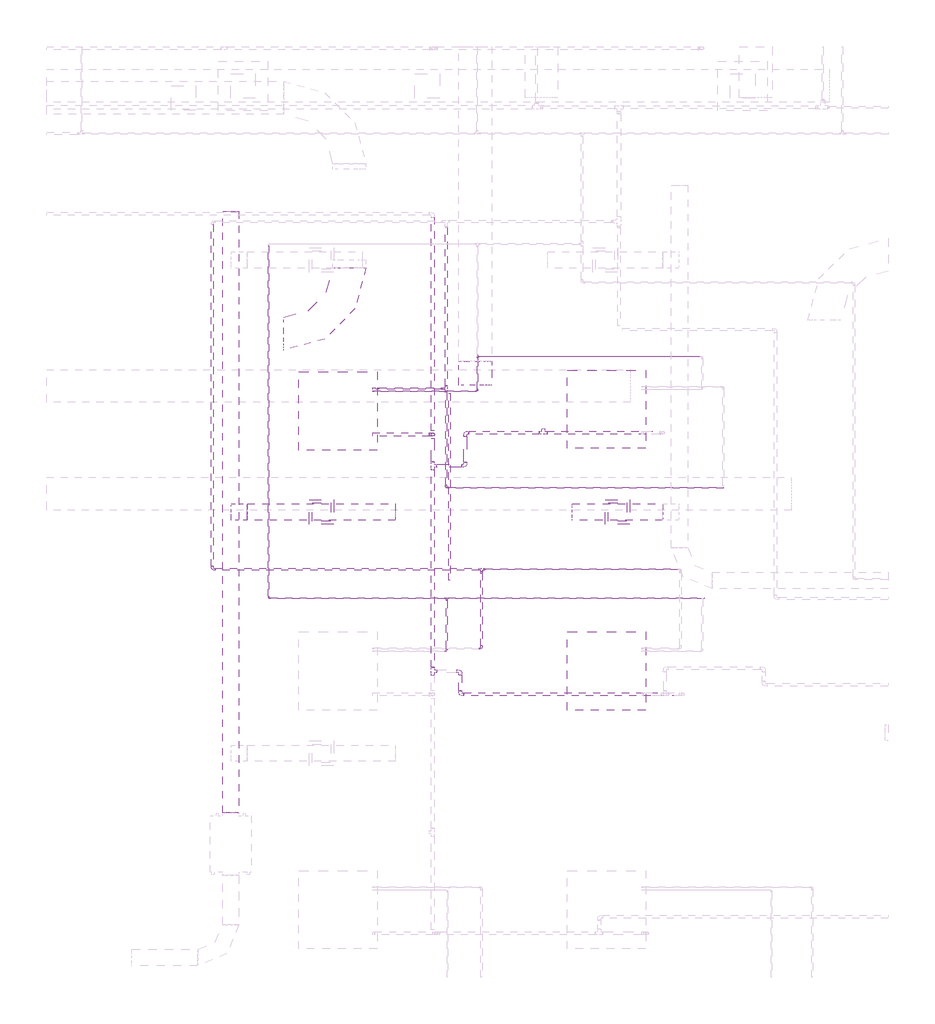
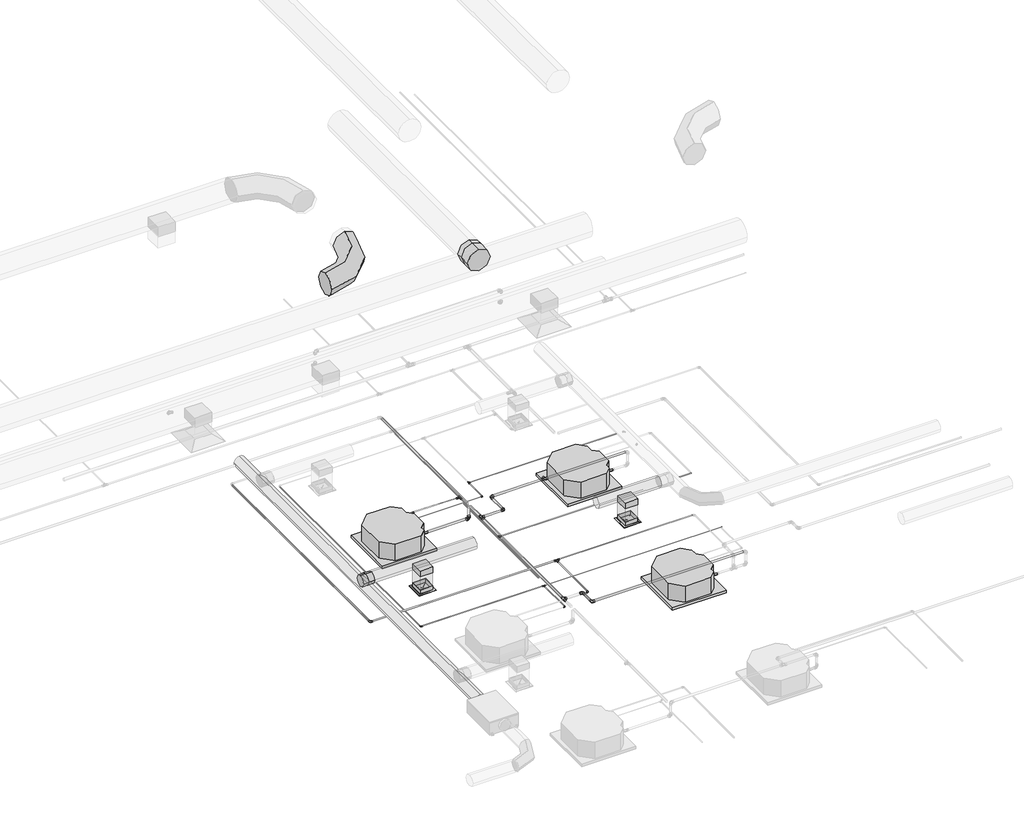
# One storey, part 10 of 21: 28 pipe segments, 24 pipe fittings, 5 duct fittings, 5 duct segments, 3 proxies, 2 air terminals.
"""IFC4 building model written with IfcOpenShell, lengths in millimetres."""

from ifc_helpers import new_model, si_unit, point, frame, frame_2d, origin, place, context, project, spatial, polyline, circle_curve, trimmed, segment, composite_curve, outline, extrude, transform, mapped, element, save
from components import sdq3535_a75e83f7, mechanical_equipment_53173f38, duct_fitting_1aed30ea, duct_fitting_f399081e, duct_fitting_4c01d837, duct_fitting_2_d_33ab650d, pipe_fitting_535881cf, pipe_fitting_3e2a63ee, pipe_fitting_5bd27a37, pipe_fitting_a5ff4f7d, pipe_fitting_660e7500, pipe_fitting_5aefb692, pipe_fitting_240cf9e3, pipe_fitting_c900cfc2, pipe_fitting_16c020f5, pipe_fitting_59d1f3e3, pipe_fitting_648138cd, pipe_fitting_725bd888

model = new_model("IFC4")

# Units and contexts
model_context = context("Model", 3, world=origin())
ifc_project = project(units=[si_unit("LENGTHUNIT", "METRE", prefix="MILLI")], contexts=[model_context])

# Site, building, storey
site = spatial("IfcSite", under=ifc_project)
building = spatial("IfcBuilding", under=site)
storey = spatial("IfcBuildingStorey", under=building, Name="Nível 1", Elevation=0.0)

# Air terminals
placement = place(None, origin())
sdq3535_shape = sdq3535_a75e83f7(model_context)
element("IfcAirTerminal", 1, ObjectType="11 - Difusor Quadrado : SDQ3535", at=placement, inside=storey, context=model_context, shape_type="MappedRepresentation", body=[
    mapped(sdq3535_shape, transform((23938.3034633, -2888.7123683, 3000.0), x_axis=(0.0, 1.0, 0.0), y_axis=(-1.0, 0.0, 0.0), z_axis=(0.0, 0.0, 1.0))),
])
element("IfcAirTerminal", 2, ObjectType="11 - Difusor Quadrado : SDQ3535", at=placement, inside=storey, context=model_context, shape_type="MappedRepresentation", body=[
    mapped(sdq3535_shape, transform((20342.4289049, -2888.7123683, 3000.0), x_axis=(0.0, -1.0, 0.0), y_axis=(1.0, 0.0, 0.0), z_axis=(0.0, 0.0, 1.0))),
])

# Proxies
mechanical_equipment_shape = mechanical_equipment_53173f38(model_context)
element("IfcBuildingElementProxy", 3, Name="Midea_VRF_Indoor_4-way Cassette_MI-90(100,112,140)Q4_DHN1-D (2nd DC) : MI2-140Q4DHN1", ObjectType="Midea_VRF_Indoor_4-way Cassette_MI-90(100,112,140)Q4_DHN1-D (2nd DC) : MI2-140Q4DHN1", at=placement, inside=storey, context=model_context, shape_type="MappedRepresentation", body=[
    mapped(mechanical_equipment_shape, transform((20543.048092, -1662.9198764, 3000.0), x_axis=(1.0, 0.0, 0.0), y_axis=(0.0, 1.0, 0.0), z_axis=(0.0, 0.0, 1.0))),
])
element("IfcBuildingElementProxy", 4, Name="Midea_VRF_Indoor_4-way Cassette_MI-90(100,112,140)Q4_DHN1-D (2nd DC) : MI2-140Q4DHN1", ObjectType="Midea_VRF_Indoor_4-way Cassette_MI-90(100,112,140)Q4_DHN1-D (2nd DC) : MI2-140Q4DHN1", at=placement, inside=storey, context=model_context, shape_type="MappedRepresentation", body=[
    mapped(mechanical_equipment_shape, transform((23805.0530733, -1641.1931819, 2999.957539), x_axis=(1.0, 0.0, 0.0), y_axis=(0.0, 1.0, 0.0), z_axis=(0.0, 0.0, 1.0))),
])
element("IfcBuildingElementProxy", 5, Name="Midea_VRF_Indoor_4-way Cassette_MI-90(100,112,140)Q4_DHN1-D (2nd DC) : MI2-140Q4DHN1", ObjectType="Midea_VRF_Indoor_4-way Cassette_MI-90(100,112,140)Q4_DHN1-D (2nd DC) : MI2-140Q4DHN1", at=placement, inside=storey, context=model_context, shape_type="MappedRepresentation", body=[
    mapped(mechanical_equipment_shape, transform((23805.0530733, -4816.980613, 3000.0), x_axis=(1.0, 0.0, 0.0), y_axis=(0.0, 1.0, 0.0), z_axis=(0.0, 0.0, 1.0))),
])

# Duct fittings
duct_fitting_shape = duct_fitting_1aed30ea(model_context)
element("IfcDuctFitting", 6, ObjectType="M_Encaixe de duto redondo : Padrão", at=placement, inside=storey, context=model_context, shape_type="MappedRepresentation", body=[
    mapped(duct_fitting_shape, transform((19341.3789049, -2888.7123683, 3521.0), x_axis=(1.0, 0.0, 0.0), y_axis=(0.0, -1.0, 0.0), z_axis=(0.0, 0.0, -1.0))),
])
duct_fitting_2_shape = duct_fitting_f399081e(model_context)
element("IfcDuctFitting", 7, ObjectType="M_Encaixe de duto redondo : Padrão", at=placement, inside=storey, context=model_context, shape_type="MappedRepresentation", body=[
    mapped(duct_fitting_2_shape, transform((22212.1483041, -1159.3889752, 7501.0), x_axis=(0.0, 1.0, 0.0), y_axis=(1.0, 0.0, 0.0), z_axis=(0.0, 0.0, -1.0))),
])
duct_fitting_3_shape = duct_fitting_4c01d837(model_context)
element("IfcDuctFitting", 8, ObjectType="M_Encaixe de duto retangular : Padrão", at=placement, inside=storey, context=model_context, shape_type="MappedRepresentation", body=[
    mapped(duct_fitting_3_shape, transform((23938.3034633, -2888.7123683, 3421.5), x_axis=(0.0, 0.0, -1.0), y_axis=(1.0, 0.0, 0.0), z_axis=(0.0, -1.0, 0.0))),
])
element("IfcDuctFitting", 9, ObjectType="M_Encaixe de duto retangular : Padrão", at=placement, inside=storey, context=model_context, shape_type="MappedRepresentation", body=[
    mapped(duct_fitting_3_shape, transform((20342.4289049, -2888.7123683, 3421.5), x_axis=(0.0, 0.0, -1.0), y_axis=(-1.0, 0.0, 0.0), z_axis=(0.0, 1.0, 0.0))),
])
duct_fitting_2_d_shape = duct_fitting_2_d_33ab650d(model_context)
element("IfcDuctFitting", 10, ObjectType="M_Cotovelo redondo : 2 D", at=placement, inside=storey, context=model_context, shape_type="MappedRepresentation", body=[
    mapped(duct_fitting_2_d_shape, transform((20682.6496305, -724.1631352, 7501.0), x_axis=(1.0, 0.0, 0.0), y_axis=(0.0, 1.0, 0.0), z_axis=(0.0, 0.0, 1.0))),
])

# Duct segments
element("IfcDuctSegment", 11, ObjectType="Torneiras / Raio curto", at=placement, inside=storey, context=model_context, shape_type="SweptSolid", body=[
    extrude(outline(composite_curve([segment(trimmed(circle_curve(frame_2d((3521.0, 19241.8789049)), 99.5), [point((3521.0, 19341.3789049))], [point((3620.5, 19241.8789049))], False, "CARTESIAN"), True, "CONTINUOUS"), segment(trimmed(circle_curve(frame_2d((3521.0, 19241.8789049)), 99.5), [point((3620.5, 19241.8789049))], [point((3521.0, 19142.3789049))], False, "CARTESIAN"), True, "CONTINUOUS"), segment(trimmed(circle_curve(frame_2d((3521.0, 19241.8789049)), 99.5), [point((3521.0, 19142.3789049))], [point((3421.5, 19241.8789049))], False, "CARTESIAN"), True, "CONTINUOUS"), segment(trimmed(circle_curve(frame_2d((3521.0, 19241.8789049)), 99.5), [point((3421.5, 19241.8789049))], [point((3521.0, 19341.3789049))], False, "CARTESIAN"), True, "CONTINUOUS")], self_intersect=False)), frame((0.0, -6538.7123683, 0.0), z_axis=(0.0, 1.0, 0.0), x_axis=(0.0, 0.0, 1.0)), (0.0, 0.0, 1.0), 7300.0),
])
element("IfcDuctSegment", 12, ObjectType="Torneiras / Raio curto", at=placement, inside=storey, context=model_context, shape_type="SweptSolid", body=[
    extrude(outline(composite_curve([segment(trimmed(circle_curve(frame_2d((-2888.7123683, 3521.0)), 99.5), [point((-2988.2123683, 3521.0))], [point((-2888.7123683, 3620.5))], False, "CARTESIAN"), True, "CONTINUOUS"), segment(trimmed(circle_curve(frame_2d((-2888.7123683, 3521.0)), 99.5), [point((-2888.7123683, 3620.5))], [point((-2789.2123683, 3521.0))], False, "CARTESIAN"), True, "CONTINUOUS"), segment(trimmed(circle_curve(frame_2d((-2888.7123683, 3521.0)), 99.5), [point((-2789.2123683, 3521.0))], [point((-2888.7123683, 3421.5))], False, "CARTESIAN"), True, "CONTINUOUS"), segment(trimmed(circle_curve(frame_2d((-2888.7123683, 3521.0)), 99.5), [point((-2888.7123683, 3421.5))], [point((-2988.2123683, 3521.0))], False, "CARTESIAN"), True, "CONTINUOUS")], self_intersect=False)), frame((19442.9789049, 0.0, 0.0), z_axis=(1.0, 0.0, 0.0), x_axis=(0.0, 1.0, 0.0)), (0.0, 0.0, 1.0), 1798.9),
])
element("IfcDuctSegment", 13, ObjectType="Torneiras / Raio curto", at=placement, inside=storey, context=model_context, shape_type="SweptSolid", body=[
    extrude(outline(composite_curve([segment(trimmed(circle_curve(frame_2d((-2888.7123683, 3521.0)), 99.5), [point((-2789.2123683, 3521.0))], [point((-2888.7123683, 3421.5))], False, "CARTESIAN"), True, "CONTINUOUS"), segment(trimmed(circle_curve(frame_2d((-2888.7123683, 3521.0)), 99.5), [point((-2888.7123683, 3421.5))], [point((-2988.2123683, 3521.0))], False, "CARTESIAN"), True, "CONTINUOUS"), segment(trimmed(circle_curve(frame_2d((-2888.7123683, 3521.0)), 99.5), [point((-2988.2123683, 3521.0))], [point((-2888.7123683, 3620.5))], False, "CARTESIAN"), True, "CONTINUOUS"), segment(trimmed(circle_curve(frame_2d((-2888.7123683, 3521.0)), 99.5), [point((-2888.7123683, 3620.5))], [point((-2789.2123683, 3521.0))], False, "CARTESIAN"), True, "CONTINUOUS")], self_intersect=False)), frame((23389.1034633, 0.0, 0.0), z_axis=(1.0, 0.0, 0.0), x_axis=(0.0, 1.0, 0.0)), (0.0, 0.0, 1.0), 1098.4),
])
element("IfcDuctSegment", 14, ObjectType="Raios cotovelos / torneiras", at=placement, inside=storey, context=model_context, shape_type="SweptSolid", body=[
    extrude(outline(polyline([(23825.8034633, -2776.2123683), (24050.8034633, -2776.2123683), (24050.8034633, -3001.2123683), (23825.8034633, -3001.2123683), (23825.8034633, -2776.2123683)])), frame((0.0, 0.0, 3005.0), z_axis=(0.0, 0.0, 1.0), x_axis=(1.0, 0.0, 0.0)), (0.0, 0.0, 1.0), 314.9),
])
element("IfcDuctSegment", 15, ObjectType="Raios cotovelos / torneiras", at=placement, inside=storey, context=model_context, shape_type="SweptSolid", body=[
    extrude(outline(polyline([(20454.9289049, -3001.2123683), (20229.9289049, -3001.2123683), (20229.9289049, -2776.2123683), (20454.9289049, -2776.2123683), (20454.9289049, -3001.2123683)])), frame((0.0, 0.0, 3005.0), z_axis=(0.0, 0.0, 1.0), x_axis=(1.0, 0.0, 0.0)), (0.0, 0.0, 1.0), 314.9),
])

# Pipe fittings
pipe_fitting_shape = pipe_fitting_535881cf(model_context)
element("IfcPipeFitting", 16, ObjectType="Cotovelo - Soldado - CU : Padrão", at=placement, inside=storey, context=model_context, shape_type="MappedRepresentation", body=[
    mapped(pipe_fitting_shape, transform((22090.0530711, -1926.1931819, 3500.0), x_axis=(-1.0, 0.0, 0.0), y_axis=(0.0, -1.0, 0.0), z_axis=(0.0, 0.0, 1.0))),
])
element("IfcPipeFitting", 17, ObjectType="Cotovelo - Soldado - CU : Padrão", at=placement, inside=storey, context=model_context, shape_type="MappedRepresentation", body=[
    mapped(pipe_fitting_shape, transform((22090.0530711, -2326.1931819, 3500.0), x_axis=(1.0, 0.0, 0.0), y_axis=(0.0, 1.0, 0.0), z_axis=(0.0, 0.0, 1.0))),
])
element("IfcPipeFitting", 18, ObjectType="Cotovelo - Soldado - CU : Padrão", at=placement, inside=storey, context=model_context, shape_type="MappedRepresentation", body=[
    mapped(pipe_fitting_shape, transform((22030.0530732, -5101.980613, 3500.0), x_axis=(0.0, -1.0, 0.0), y_axis=(1.0, 0.0, 0.0), z_axis=(0.0, 0.0, 1.0))),
])
element("IfcPipeFitting", 19, ObjectType="Cotovelo - Soldado - CU : Padrão", at=placement, inside=storey, context=model_context, shape_type="MappedRepresentation", body=[
    mapped(pipe_fitting_shape, transform((22030.0530732, -4821.980613, 3500.0), x_axis=(0.0, 1.0, 0.0), y_axis=(-1.0, 0.0, 0.0), z_axis=(0.0, 0.0, 1.0))),
])
pipe_fitting_2_shape = pipe_fitting_3e2a63ee(model_context)
element("IfcPipeFitting", 20, ObjectType="Tê - Soldado - CU : Padrão", at=placement, inside=storey, context=model_context, shape_type="MappedRepresentation", body=[
    mapped(pipe_fitting_2_shape, transform((21695.3015024, -2326.1931819, 3500.0), x_axis=(0.0, 1.0, 0.0), y_axis=(-1.0, 0.0, 0.0), z_axis=(0.0, 0.0, 1.0))),
])
element("IfcPipeFitting", 21, ObjectType="Tê - Soldado - CU : Padrão", at=placement, inside=storey, context=model_context, shape_type="MappedRepresentation", body=[
    mapped(pipe_fitting_2_shape, transform((21695.3015024, -4821.980613, 3500.0), x_axis=(0.0, 1.0, 0.0), y_axis=(-1.0, 0.0, 0.0), z_axis=(0.0, 0.0, 1.0))),
])
element("IfcPipeFitting", 22, ObjectType="Tê - Soldado - CU : Padrão", at=placement, inside=storey, context=model_context, shape_type="MappedRepresentation", body=[
    mapped(pipe_fitting_2_shape, transform((23035.2170018, -1926.1931819, 3500.0), x_axis=(1.0, 0.0, 0.0), y_axis=(0.0, -1.0, 0.0), z_axis=(0.0, 0.0, -1.0))),
])
pipe_fitting_3_shape = pipe_fitting_5bd27a37(model_context)
element("IfcPipeFitting", 23, ObjectType="Cotovelo - PVC - CW : Padrão", at=placement, inside=storey, context=model_context, shape_type="MappedRepresentation", body=[
    mapped(pipe_fitting_3_shape, transform((21695.3015024, -1947.9198764, 3252.2997902), x_axis=(0.0, 0.0, -1.0), y_axis=(-1.0, 0.0, 0.0), z_axis=(0.0, 1.0, 0.0))),
])
pipe_fitting_4_shape = pipe_fitting_a5ff4f7d(model_context)
element("IfcPipeFitting", 24, ObjectType="Bucha de redução reta - Soldada - CU : Padrão", at=placement, inside=storey, context=model_context, shape_type="MappedRepresentation", body=[
    mapped(pipe_fitting_4_shape, transform((21812.6543216, -1389.7090627, 3244.9996149), x_axis=(-0.9999489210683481, 0.0, 0.010107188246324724), y_axis=(-2.6392464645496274e-05, -0.9999965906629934, -0.002611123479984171), z_axis=(0.010107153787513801, -0.0026112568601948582, 0.9999455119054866))),
])
element("IfcPipeFitting", 25, ObjectType="Bucha de redução reta - Soldada - CU : Padrão", at=placement, inside=storey, context=model_context, shape_type="MappedRepresentation", body=[
    mapped(pipe_fitting_4_shape, transform((21857.3516384, -1422.472451, 3244.4622693), x_axis=(0.0, -0.9999965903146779, -0.002611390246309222), y_axis=(0.9999489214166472, 2.6393722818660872e-05, -0.01010711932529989), z_axis=(0.010107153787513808, -0.0026112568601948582, 0.9999455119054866))),
])
element("IfcPipeFitting", 26, ObjectType="Bucha de redução reta - Soldada - CU : Padrão", at=placement, inside=storey, context=model_context, shape_type="MappedRepresentation", body=[
    mapped(pipe_fitting_4_shape, transform((22286.8201066, -3616.3591299, 3258.1740605), x_axis=(0.0, -0.9999801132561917, -0.006306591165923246), y_axis=(1.0000000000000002, 0.0, 0.0), z_axis=(0.0, -0.006306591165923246, 0.9999801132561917))),
])
element("IfcPipeFitting", 27, ObjectType="Bucha de redução reta - Soldada - CU : Padrão", at=placement, inside=storey, context=model_context, shape_type="MappedRepresentation", body=[
    mapped(pipe_fitting_4_shape, transform((22319.5672066, -3583.6315808, 3258.3804639), x_axis=(1.0, 0.0, 0.0), y_axis=(0.0, 0.9999801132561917, 0.006306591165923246), z_axis=(0.0, -0.006306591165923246, 0.9999801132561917))),
])
pipe_fitting_5_shape = pipe_fitting_660e7500(model_context)
element("IfcPipeFitting", 28, ObjectType="Tê - Soldado - CU : Padrão", at=placement, inside=storey, context=model_context, shape_type="MappedRepresentation", body=[
    mapped(pipe_fitting_5_shape, transform((22286.8201066, -3583.6315808, 3258.3804639), x_axis=(-1.0, 0.0, 0.0), y_axis=(0.0, 0.9999801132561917, 0.006306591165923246), z_axis=(0.0, 0.006306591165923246, -0.9999801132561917))),
])
pipe_fitting_6_shape = pipe_fitting_5aefb692(model_context)
element("IfcPipeFitting", 29, ObjectType="Cotovelo - Soldado - CU : Padrão", at=placement, inside=storey, context=model_context, shape_type="MappedRepresentation", body=[
    mapped(pipe_fitting_6_shape, transform((19017.7444764, -3583.6315808, 3258.3804639), x_axis=(0.0, -1.0, 0.0), y_axis=(1.0, 0.0, 0.0), z_axis=(0.0, 0.0, 1.0))),
])
pipe_fitting_7_shape = pipe_fitting_240cf9e3(model_context)
element("IfcPipeFitting", 30, ObjectType="Tê - Soldado - CU : Padrão", at=placement, inside=storey, context=model_context, shape_type="MappedRepresentation", body=[
    mapped(pipe_fitting_7_shape, transform((21857.3516384, -1389.7090627, 3244.5478276), x_axis=(0.0, 0.9999965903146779, 0.002611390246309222), y_axis=(0.9999489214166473, 2.639372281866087e-05, -0.010107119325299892), z_axis=(-0.01010715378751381, 0.0026112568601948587, -0.9999455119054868))),
])
pipe_fitting_8_shape = pipe_fitting_c900cfc2(model_context)
element("IfcPipeFitting", 31, ObjectType="Bucha de redução reta - Soldada - CU : Padrão", at=placement, inside=storey, context=model_context, shape_type="MappedRepresentation", body=[
    mapped(pipe_fitting_8_shape, transform((21031.5069338, -1389.7090627, 3252.3085101), x_axis=(1.0, 0.0, 0.0), y_axis=(0.0, 1.0, 0.0), z_axis=(0.0, 0.0, 1.0))),
])
pipe_fitting_9_shape = pipe_fitting_16c020f5(model_context)
element("IfcPipeFitting", 32, ObjectType="Cotovelo - Soldado - CU : Padrão", at=placement, inside=storey, context=model_context, shape_type="MappedRepresentation", body=[
    mapped(pipe_fitting_9_shape, transform((21857.3516384, -2593.4898582, 3241.4042755), x_axis=(0.0, -0.9999965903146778, -0.0026113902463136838), y_axis=(1.0, 0.0, 0.0), z_axis=(0.0, -0.0026113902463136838, 0.9999965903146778))),
])
element("IfcPipeFitting", 33, ObjectType="Cotovelo - Soldado - CU : Padrão", at=placement, inside=storey, context=model_context, shape_type="MappedRepresentation", body=[
    mapped(pipe_fitting_9_shape, transform((22286.8201066, -4543.7697994, 3252.3085101), x_axis=(1.0, 0.0, 0.0), y_axis=(0.0, 0.9999801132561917, 0.006306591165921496), z_axis=(0.0, -0.006306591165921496, 0.9999801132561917))),
])
pipe_fitting_10_shape = pipe_fitting_59d1f3e3(model_context)
element("IfcPipeFitting", 34, ObjectType="Bucha de redução reta - Soldada - CU : Padrão", at=placement, inside=storey, context=model_context, shape_type="MappedRepresentation", body=[
    mapped(pipe_fitting_10_shape, transform((20968.048092, -1423.5115045, 3146.8446487), x_axis=(1.0, 0.0, 0.0), y_axis=(0.0, 1.0, 0.0), z_axis=(0.0, 0.0, 1.0))),
])
pipe_fitting_11_shape = pipe_fitting_648138cd(model_context)
element("IfcPipeFitting", 35, ObjectType="Cotovelo - Soldado - CU : Padrão", at=placement, inside=storey, context=model_context, shape_type="MappedRepresentation", body=[
    mapped(pipe_fitting_11_shape, transform((22237.7224905, -1423.5115045, 3146.7837101), x_axis=(0.9999999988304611, 0.0, -4.8364015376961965e-05), y_axis=(4.4037031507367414e-10, 0.9999999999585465, 9.105329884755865e-06), z_axis=(4.83640153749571e-05, -9.105329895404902e-06, 0.9999999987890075))),
])
element("IfcPipeFitting", 36, ObjectType="Cotovelo - Soldado - CU : Padrão", at=placement, inside=storey, context=model_context, shape_type="MappedRepresentation", body=[
    mapped(pipe_fitting_11_shape, transform((19700.4127405, -3934.628981, 3146.8), x_axis=(0.0, -1.0, 0.0), y_axis=(1.0, 0.0, 0.0), z_axis=(0.0, 0.0, 1.0))),
])
element("IfcPipeFitting", 37, ObjectType="Cotovelo - Soldado - CU : Padrão", at=placement, inside=storey, context=model_context, shape_type="MappedRepresentation", body=[
    mapped(pipe_fitting_11_shape, transform((21863.0244777, -4577.5722412, 3146.8016836), x_axis=(0.9999999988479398, 0.0, -4.8001255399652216e-05), y_axis=(-1.2562438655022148e-10, 0.9999999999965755, -2.6171062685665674e-06), z_axis=(4.800125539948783e-05, 2.6171062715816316e-06, 0.9999999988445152))),
])
pipe_fitting_12_shape = pipe_fitting_725bd888(model_context)
element("IfcPipeFitting", 38, ObjectType="Tê - Soldado - CU : Padrão", at=placement, inside=storey, context=model_context, shape_type="MappedRepresentation", body=[
    mapped(pipe_fitting_12_shape, transform((22237.7224905, -1001.78481, 3146.7875501), x_axis=(0.0, -0.9999999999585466, -9.105329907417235e-06), y_axis=(-1.0000000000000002, 0.0, 0.0), z_axis=(0.0, 9.105329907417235e-06, -0.9999999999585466))),
])
element("IfcPipeFitting", 39, ObjectType="Tê - Soldado - CU : Padrão", at=placement, inside=storey, context=model_context, shape_type="MappedRepresentation", body=[
    mapped(pipe_fitting_12_shape, transform((21863.0244777, -3934.628981, 3146.8), x_axis=(-1.0, 0.0, 0.0), y_axis=(0.0, 0.9999999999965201, -2.638159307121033e-06), z_axis=(0.0, -2.638159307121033e-06, -0.9999999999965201))),
])

# Pipe segments
element("IfcPipeSegment", 40, ObjectType="Tubos de cobre HVAC", at=placement, inside=storey, context=model_context, shape_type="SweptSolid", body=[
    extrude(outline(composite_curve([segment(trimmed(circle_curve(frame_2d((0.0, -7.935)), 7.935), [point((0.0, -15.87))], [point((-7.935, -7.935))], False, "CARTESIAN"), True, "CONTINUOUS"), segment(trimmed(circle_curve(frame_2d((0.0, -7.935)), 7.935), [point((-7.935, -7.935))], [point((0.0, 0.0))], False, "CARTESIAN"), True, "CONTINUOUS"), segment(trimmed(circle_curve(frame_2d((0.0, -7.935)), 7.935), [point((0.0, 0.0))], [point((7.935, -7.935))], False, "CARTESIAN"), True, "CONTINUOUS"), segment(trimmed(circle_curve(frame_2d((0.0, -7.935)), 7.935), [point((7.935, -7.935))], [point((0.0, -15.87))], False, "CARTESIAN"), True, "CONTINUOUS")], self_intersect=False)), frame((21799.9960682, -1381.7740627, 3245.1275608), z_axis=(-0.9999548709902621, 0.0, 0.009500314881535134), x_axis=(0.009500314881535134, 0.0, 0.9999548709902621)), (0.0, 0.0, 1.0), 755.8643458),
])
element("IfcPipeSegment", 41, ObjectType="Tubos de cobre HVAC", at=placement, inside=storey, context=model_context, shape_type="SweptSolid", body=[
    extrude(outline(composite_curve([segment(trimmed(circle_curve(frame_2d((0.0, -4.76)), 4.76), [point((-4.76, -4.76))], [point((0.0, 0.0))], False, "CARTESIAN"), True, "CONTINUOUS"), segment(trimmed(circle_curve(frame_2d((0.0, -4.76)), 4.76), [point((0.0, 0.0))], [point((4.76, -4.76))], False, "CARTESIAN"), True, "CONTINUOUS"), segment(trimmed(circle_curve(frame_2d((0.0, -4.76)), 4.76), [point((4.76, -4.76))], [point((0.0, -9.52))], False, "CARTESIAN"), True, "CONTINUOUS"), segment(trimmed(circle_curve(frame_2d((0.0, -4.76)), 4.76), [point((0.0, -9.52))], [point((-4.76, -4.76))], False, "CARTESIAN"), True, "CONTINUOUS")], self_intersect=False)), frame((22213.6966603, -1423.5115045, 3142.0248721), z_axis=(-0.999999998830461, 0.0, 4.83640154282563e-05), x_axis=(0.0, 1.0, 0.0)), (0.0, 0.0, 1.0), 1235.9744),
])
element("IfcPipeSegment", 42, ObjectType="Tubos de cobre HVAC", at=placement, inside=storey, context=model_context, shape_type="SweptSolid", body=[
    extrude(outline(composite_curve([segment(trimmed(circle_curve(frame_2d((3146.8, 21897.7158777)), 6.35), [point((3146.8, 21891.3658777))], [point((3140.45, 21897.7158777))], False, "CARTESIAN"), True, "CONTINUOUS"), segment(trimmed(circle_curve(frame_2d((3146.8, 21897.7158777)), 6.35), [point((3140.45, 21897.7158777))], [point((3146.8, 21904.0658777))], False, "CARTESIAN"), True, "CONTINUOUS"), segment(trimmed(circle_curve(frame_2d((3146.8, 21897.7158777)), 6.35), [point((3146.8, 21904.0658777))], [point((3153.15, 21897.7158777))], False, "CARTESIAN"), True, "CONTINUOUS"), segment(trimmed(circle_curve(frame_2d((3146.8, 21897.7158777)), 6.35), [point((3153.15, 21897.7158777))], [point((3146.8, 21891.3658777))], False, "CARTESIAN"), True, "CONTINUOUS")], self_intersect=False)), frame((0.0, -3716.6692588, 0.0), z_axis=(0.0, 1.0, 0.0), x_axis=(0.0, 0.0, 1.0)), (0.0, 0.0, 1.0), 2268.0742543),
])
element("IfcPipeSegment", 43, ObjectType="Plástico", at=placement, inside=storey, context=model_context, shape_type="SweptSolid", body=[
    extrude(outline(composite_curve([segment(trimmed(circle_curve(frame_2d((0.0, 20.0)), 20.0), [point((-20.0, 20.0))], [point((0.0, 40.0))], False, "CARTESIAN"), True, "CONTINUOUS"), segment(trimmed(circle_curve(frame_2d((0.0, 20.0)), 20.0), [point((0.0, 40.0))], [point((20.0, 20.0))], False, "CARTESIAN"), True, "CONTINUOUS"), segment(trimmed(circle_curve(frame_2d((0.0, 20.0)), 20.0), [point((20.0, 20.0))], [point((0.0, 0.0))], False, "CARTESIAN"), True, "CONTINUOUS"), segment(trimmed(circle_curve(frame_2d((0.0, 20.0)), 20.0), [point((0.0, 0.0))], [point((-20.0, 20.0))], False, "CARTESIAN"), True, "CONTINUOUS")], self_intersect=False)), frame((21650.3009868, -1947.9198764, 3232.3003297), z_axis=(-0.9999999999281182, 0.0, 1.1990154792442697e-05), x_axis=(0.0, -1.0, 0.0)), (0.0, 0.0, 1.0), 682.2531347),
])
element("IfcPipeSegment", 44, ObjectType="Plástico", at=placement, inside=storey, context=model_context, shape_type="SweptSolid", body=[
    extrude(outline(composite_curve([segment(trimmed(circle_curve(frame_2d((21695.3015024, -1947.9198764)), 20.0), [point((21715.3015024, -1947.9198764))], [point((21695.3015024, -1967.9198764))], False, "CARTESIAN"), True, "CONTINUOUS"), segment(trimmed(circle_curve(frame_2d((21695.3015024, -1947.9198764)), 20.0), [point((21695.3015024, -1967.9198764))], [point((21675.3015024, -1947.9198764))], False, "CARTESIAN"), True, "CONTINUOUS"), segment(trimmed(circle_curve(frame_2d((21695.3015024, -1947.9198764)), 20.0), [point((21675.3015024, -1947.9198764))], [point((21695.3015024, -1927.9198764))], False, "CARTESIAN"), True, "CONTINUOUS"), segment(trimmed(circle_curve(frame_2d((21695.3015024, -1947.9198764)), 20.0), [point((21695.3015024, -1927.9198764))], [point((21715.3015024, -1947.9198764))], False, "CARTESIAN"), True, "CONTINUOUS")], self_intersect=False)), frame((0.0, 0.0, 3297.3000659), z_axis=(0.0, 0.0, 1.0), x_axis=(1.0, 0.0, 0.0)), (0.0, 0.0, 1.0), 157.2499341),
])
element("IfcPipeSegment", 45, ObjectType="Tubos de cobre HVAC", at=placement, inside=storey, context=model_context, shape_type="SweptSolid", body=[
    extrude(outline(composite_curve([segment(trimmed(circle_curve(frame_2d((3500.0, 21695.3015024)), 17.5), [point((3500.0, 21677.8015024))], [point((3482.5, 21695.3015024))], False, "CARTESIAN"), True, "CONTINUOUS"), segment(trimmed(circle_curve(frame_2d((3500.0, 21695.3015024)), 17.5), [point((3482.5, 21695.3015024))], [point((3500.0, 21712.8015024))], False, "CARTESIAN"), True, "CONTINUOUS"), segment(trimmed(circle_curve(frame_2d((3500.0, 21695.3015024)), 17.5), [point((3500.0, 21712.8015024))], [point((3517.5, 21695.3015024))], False, "CARTESIAN"), True, "CONTINUOUS"), segment(trimmed(circle_curve(frame_2d((3500.0, 21695.3015024)), 17.5), [point((3517.5, 21695.3015024))], [point((3500.0, 21677.8015024))], False, "CARTESIAN"), True, "CONTINUOUS")], self_intersect=False)), frame((0.0, -1902.0183764, 0.0), z_axis=(0.0, 1.0, 0.0), x_axis=(0.0, 0.0, 1.0)), (0.0, 0.0, 1.0), 2592.5943542),
])
element("IfcPipeSegment", 46, ObjectType="Tubos de cobre HVAC", at=placement, inside=storey, context=model_context, shape_type="SweptSolid", body=[
    extrude(outline(composite_curve([segment(trimmed(circle_curve(frame_2d((-1926.1931819, 3500.0)), 17.5), [point((-1908.6931819, 3500.0))], [point((-1926.1931819, 3482.5))], False, "CARTESIAN"), True, "CONTINUOUS"), segment(trimmed(circle_curve(frame_2d((-1926.1931819, 3500.0)), 17.5), [point((-1926.1931819, 3482.5))], [point((-1943.6931819, 3500.0))], False, "CARTESIAN"), True, "CONTINUOUS"), segment(trimmed(circle_curve(frame_2d((-1926.1931819, 3500.0)), 17.5), [point((-1943.6931819, 3500.0))], [point((-1926.1931819, 3517.5))], False, "CARTESIAN"), True, "CONTINUOUS"), segment(trimmed(circle_curve(frame_2d((-1926.1931819, 3500.0)), 17.5), [point((-1926.1931819, 3517.5))], [point((-1908.6931819, 3500.0))], False, "CARTESIAN"), True, "CONTINUOUS")], self_intersect=False)), frame((22131.6530711, 0.0, 0.0), z_axis=(1.0, 0.0, 0.0), x_axis=(0.0, 1.0, 0.0)), (0.0, 0.0, 1.0), 856.8139307),
])
element("IfcPipeSegment", 47, ObjectType="Tubos de cobre HVAC", at=placement, inside=storey, context=model_context, shape_type="SweptSolid", body=[
    extrude(outline(composite_curve([segment(trimmed(circle_curve(frame_2d((3500.0, 22090.0530711)), 17.5), [point((3500.0, 22072.5530711))], [point((3482.5, 22090.0530711))], False, "CARTESIAN"), True, "CONTINUOUS"), segment(trimmed(circle_curve(frame_2d((3500.0, 22090.0530711)), 17.5), [point((3482.5, 22090.0530711))], [point((3500.0, 22107.5530711))], False, "CARTESIAN"), True, "CONTINUOUS"), segment(trimmed(circle_curve(frame_2d((3500.0, 22090.0530711)), 17.5), [point((3500.0, 22107.5530711))], [point((3517.5, 22090.0530711))], False, "CARTESIAN"), True, "CONTINUOUS"), segment(trimmed(circle_curve(frame_2d((3500.0, 22090.0530711)), 17.5), [point((3517.5, 22090.0530711))], [point((3500.0, 22072.5530711))], False, "CARTESIAN"), True, "CONTINUOUS")], self_intersect=False)), frame((0.0, -2284.5931819, 0.0), z_axis=(0.0, 1.0, 0.0), x_axis=(0.0, 0.0, 1.0)), (0.0, 0.0, 1.0), 316.8),
])
element("IfcPipeSegment", 48, ObjectType="Tubos de cobre HVAC", at=placement, inside=storey, context=model_context, shape_type="SweptSolid", body=[
    extrude(outline(composite_curve([segment(trimmed(circle_curve(frame_2d((-2326.1931819, 3500.0)), 17.5), [point((-2343.6931819, 3500.0))], [point((-2326.1931819, 3517.5))], False, "CARTESIAN"), True, "CONTINUOUS"), segment(trimmed(circle_curve(frame_2d((-2326.1931819, 3500.0)), 17.5), [point((-2326.1931819, 3517.5))], [point((-2308.6931819, 3500.0))], False, "CARTESIAN"), True, "CONTINUOUS"), segment(trimmed(circle_curve(frame_2d((-2326.1931819, 3500.0)), 17.5), [point((-2308.6931819, 3500.0))], [point((-2326.1931819, 3482.5))], False, "CARTESIAN"), True, "CONTINUOUS"), segment(trimmed(circle_curve(frame_2d((-2326.1931819, 3500.0)), 17.5), [point((-2326.1931819, 3482.5))], [point((-2343.6931819, 3500.0))], False, "CARTESIAN"), True, "CONTINUOUS")], self_intersect=False)), frame((21740.8015024, 0.0, 0.0), z_axis=(1.0, 0.0, 0.0), x_axis=(0.0, 1.0, 0.0)), (0.0, 0.0, 1.0), 307.6515687),
])
element("IfcPipeSegment", 49, ObjectType="Tubos de cobre HVAC", at=placement, inside=storey, context=model_context, shape_type="SweptSolid", body=[
    extrude(outline(composite_curve([segment(trimmed(circle_curve(frame_2d((3500.0, 21695.3015024)), 17.5), [point((3500.0, 21677.8015024))], [point((3482.5, 21695.3015024))], False, "CARTESIAN"), True, "CONTINUOUS"), segment(trimmed(circle_curve(frame_2d((3500.0, 21695.3015024)), 17.5), [point((3482.5, 21695.3015024))], [point((3500.0, 21712.8015024))], False, "CARTESIAN"), True, "CONTINUOUS"), segment(trimmed(circle_curve(frame_2d((3500.0, 21695.3015024)), 17.5), [point((3500.0, 21712.8015024))], [point((3517.5, 21695.3015024))], False, "CARTESIAN"), True, "CONTINUOUS"), segment(trimmed(circle_curve(frame_2d((3500.0, 21695.3015024)), 17.5), [point((3517.5, 21695.3015024))], [point((3500.0, 21677.8015024))], False, "CARTESIAN"), True, "CONTINUOUS")], self_intersect=False)), frame((0.0, -2279.4431819, 0.0), z_axis=(0.0, 1.0, 0.0), x_axis=(0.0, 0.0, 1.0)), (0.0, 0.0, 1.0), 285.6218055),
])
element("IfcPipeSegment", 50, ObjectType="Tubos de cobre HVAC", at=placement, inside=storey, context=model_context, shape_type="SweptSolid", body=[
    extrude(outline(composite_curve([segment(trimmed(circle_curve(frame_2d((-5101.980613, 3500.0)), 17.5), [point((-5084.480613, 3500.0))], [point((-5101.980613, 3482.5))], False, "CARTESIAN"), True, "CONTINUOUS"), segment(trimmed(circle_curve(frame_2d((-5101.980613, 3500.0)), 17.5), [point((-5101.980613, 3482.5))], [point((-5119.480613, 3500.0))], False, "CARTESIAN"), True, "CONTINUOUS"), segment(trimmed(circle_curve(frame_2d((-5101.980613, 3500.0)), 17.5), [point((-5119.480613, 3500.0))], [point((-5101.980613, 3517.5))], False, "CARTESIAN"), True, "CONTINUOUS"), segment(trimmed(circle_curve(frame_2d((-5101.980613, 3500.0)), 17.5), [point((-5101.980613, 3517.5))], [point((-5084.480613, 3500.0))], False, "CARTESIAN"), True, "CONTINUOUS")], self_intersect=False)), frame((22071.6530732, 0.0, 0.0), z_axis=(1.0, 0.0, 0.0), x_axis=(0.0, 1.0, 0.0)), (0.0, 0.0, 1.0), 2616.8),
])
element("IfcPipeSegment", 51, ObjectType="Tubos de cobre HVAC", at=placement, inside=storey, context=model_context, shape_type="SweptSolid", body=[
    extrude(outline(composite_curve([segment(trimmed(circle_curve(frame_2d((3500.0, 22030.0530732)), 17.5), [point((3500.0, 22047.5530732))], [point((3517.5, 22030.0530732))], False, "CARTESIAN"), True, "CONTINUOUS"), segment(trimmed(circle_curve(frame_2d((3500.0, 22030.0530732)), 17.5), [point((3517.5, 22030.0530732))], [point((3500.0, 22012.5530732))], False, "CARTESIAN"), True, "CONTINUOUS"), segment(trimmed(circle_curve(frame_2d((3500.0, 22030.0530732)), 17.5), [point((3500.0, 22012.5530732))], [point((3482.5, 22030.0530732))], False, "CARTESIAN"), True, "CONTINUOUS"), segment(trimmed(circle_curve(frame_2d((3500.0, 22030.0530732)), 17.5), [point((3482.5, 22030.0530732))], [point((3500.0, 22047.5530732))], False, "CARTESIAN"), True, "CONTINUOUS")], self_intersect=False)), frame((0.0, -5060.380613, 0.0), z_axis=(0.0, 1.0, 0.0), x_axis=(0.0, 0.0, 1.0)), (0.0, 0.0, 1.0), 196.8),
])
element("IfcPipeSegment", 52, ObjectType="Tubos de cobre HVAC", at=placement, inside=storey, context=model_context, shape_type="SweptSolid", body=[
    extrude(outline(composite_curve([segment(trimmed(circle_curve(frame_2d((3500.0, 21695.3015024)), 17.5), [point((3500.0, 21677.8015024))], [point((3482.5, 21695.3015024))], False, "CARTESIAN"), True, "CONTINUOUS"), segment(trimmed(circle_curve(frame_2d((3500.0, 21695.3015024)), 17.5), [point((3482.5, 21695.3015024))], [point((3500.0, 21712.8015024))], False, "CARTESIAN"), True, "CONTINUOUS"), segment(trimmed(circle_curve(frame_2d((3500.0, 21695.3015024)), 17.5), [point((3500.0, 21712.8015024))], [point((3517.5, 21695.3015024))], False, "CARTESIAN"), True, "CONTINUOUS"), segment(trimmed(circle_curve(frame_2d((3500.0, 21695.3015024)), 17.5), [point((3517.5, 21695.3015024))], [point((3500.0, 21677.8015024))], False, "CARTESIAN"), True, "CONTINUOUS")], self_intersect=False)), frame((0.0, -4775.230613, 0.0), z_axis=(0.0, 1.0, 0.0), x_axis=(0.0, 0.0, 1.0)), (0.0, 0.0, 1.0), 2402.2874312),
])
element("IfcPipeSegment", 53, ObjectType="Tubos de cobre HVAC", at=placement, inside=storey, context=model_context, shape_type="SweptSolid", body=[
    extrude(outline(composite_curve([segment(trimmed(circle_curve(frame_2d((-1926.1931819, 3500.0)), 17.5), [point((-1908.6931819, 3500.0))], [point((-1926.1931819, 3482.5))], False, "CARTESIAN"), True, "CONTINUOUS"), segment(trimmed(circle_curve(frame_2d((-1926.1931819, 3500.0)), 17.5), [point((-1926.1931819, 3482.5))], [point((-1943.6931819, 3500.0))], False, "CARTESIAN"), True, "CONTINUOUS"), segment(trimmed(circle_curve(frame_2d((-1926.1931819, 3500.0)), 17.5), [point((-1943.6931819, 3500.0))], [point((-1926.1931819, 3517.5))], False, "CARTESIAN"), True, "CONTINUOUS"), segment(trimmed(circle_curve(frame_2d((-1926.1931819, 3500.0)), 17.5), [point((-1926.1931819, 3517.5))], [point((-1908.6931819, 3500.0))], False, "CARTESIAN"), True, "CONTINUOUS")], self_intersect=False)), frame((23081.9670018, 0.0, 0.0), z_axis=(1.0, 0.0, 0.0), x_axis=(0.0, 1.0, 0.0)), (0.0, 0.0, 1.0), 1366.4860693),
])
element("IfcPipeSegment", 54, ObjectType="Tubos de cobre HVAC", at=placement, inside=storey, context=model_context, shape_type="SweptSolid", body=[
    extrude(outline(composite_curve([segment(trimmed(circle_curve(frame_2d((0.0, -7.9350001)), 7.935), [point((-7.935, -7.9350001))], [point((0.0, 0.0))], False, "CARTESIAN"), True, "CONTINUOUS"), segment(trimmed(circle_curve(frame_2d((0.0, -7.9350001)), 7.935), [point((0.0, 0.0))], [point((7.935, -7.9350001))], False, "CARTESIAN"), True, "CONTINUOUS"), segment(trimmed(circle_curve(frame_2d((0.0, -7.9350001)), 7.935), [point((7.935, -7.9350001))], [point((0.0, -15.87))], False, "CARTESIAN"), True, "CONTINUOUS"), segment(trimmed(circle_curve(frame_2d((0.0, -7.9350001)), 7.935), [point((0.0, -15.87))], [point((-7.935, -7.9350001))], False, "CARTESIAN"), True, "CONTINUOUS")], self_intersect=False)), frame((21857.3516384, -2564.4906356, 3233.5449769), z_axis=(0.0, 0.9999965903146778, 0.002611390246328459), x_axis=(1.0, 0.0, 0.0)), (0.0, 0.0, 1.0), 1129.3839),
])
element("IfcPipeSegment", 55, ObjectType="Tubos de cobre HVAC", at=placement, inside=storey, context=model_context, shape_type="SweptSolid", body=[
    extrude(outline(composite_curve([segment(trimmed(circle_curve(frame_2d((-1389.7090627, 3252.3085101)), 7.95), [point((-1397.6590627, 3252.3085101))], [point((-1389.7090627, 3260.2585101))], False, "CARTESIAN"), True, "CONTINUOUS"), segment(trimmed(circle_curve(frame_2d((-1389.7090627, 3252.3085101)), 7.95), [point((-1389.7090627, 3260.2585101))], [point((-1381.7590627, 3252.3085101))], False, "CARTESIAN"), True, "CONTINUOUS"), segment(trimmed(circle_curve(frame_2d((-1389.7090627, 3252.3085101)), 7.95), [point((-1381.7590627, 3252.3085101))], [point((-1389.7090627, 3244.3585101))], False, "CARTESIAN"), True, "CONTINUOUS"), segment(trimmed(circle_curve(frame_2d((-1389.7090627, 3252.3085101)), 7.95), [point((-1389.7090627, 3244.3585101))], [point((-1397.6590627, 3252.3085101))], False, "CARTESIAN"), True, "CONTINUOUS")], self_intersect=False)), frame((20968.048092, 0.0, 0.0), z_axis=(1.0, 0.0, 0.0), x_axis=(0.0, 1.0, 0.0)), (0.0, 0.0, 1.0), 63.4588418),
])
element("IfcPipeSegment", 56, ObjectType="Tubos de cobre HVAC", at=placement, inside=storey, context=model_context, shape_type="SweptSolid", body=[
    extrude(outline(composite_curve([segment(trimmed(circle_curve(frame_2d((0.0, -11.11)), 11.11), [point((-11.11, -11.11))], [point((0.0, 0.0))], False, "CARTESIAN"), True, "CONTINUOUS"), segment(trimmed(circle_curve(frame_2d((0.0, -11.11)), 11.11), [point((0.0, 0.0))], [point((11.11, -11.11))], False, "CARTESIAN"), True, "CONTINUOUS"), segment(trimmed(circle_curve(frame_2d((0.0, -11.11)), 11.11), [point((11.11, -11.11))], [point((0.0, -22.22))], False, "CARTESIAN"), True, "CONTINUOUS"), segment(trimmed(circle_curve(frame_2d((0.0, -11.11)), 11.11), [point((0.0, -22.22))], [point((-11.11, -11.11))], False, "CARTESIAN"), True, "CONTINUOUS")], self_intersect=False)), frame((21857.3516384, -1356.9166619, 3233.5234238), z_axis=(0.0, 0.9999965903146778, 0.002611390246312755), x_axis=(1.0, 0.0, 0.0)), (0.0, 0.0, 1.0), 1923.3274982),
])
element("IfcPipeSegment", 57, ObjectType="Tubos de cobre HVAC", at=placement, inside=storey, context=model_context, shape_type="SweptSolid", body=[
    extrude(outline(composite_curve([segment(trimmed(circle_curve(frame_2d((-2593.4898582, 3241.4042755)), 7.935), [point((-2601.4248582, 3241.4042755))], [point((-2593.4898582, 3249.3392755))], False, "CARTESIAN"), True, "CONTINUOUS"), segment(trimmed(circle_curve(frame_2d((-2593.4898582, 3241.4042755)), 7.935), [point((-2593.4898582, 3249.3392755))], [point((-2585.5548582, 3241.4042755))], False, "CARTESIAN"), True, "CONTINUOUS"), segment(trimmed(circle_curve(frame_2d((-2593.4898582, 3241.4042755)), 7.935), [point((-2585.5548582, 3241.4042755))], [point((-2593.4898582, 3233.4692755))], False, "CARTESIAN"), True, "CONTINUOUS"), segment(trimmed(circle_curve(frame_2d((-2593.4898582, 3241.4042755)), 7.935), [point((-2593.4898582, 3233.4692755))], [point((-2601.4248582, 3241.4042755))], False, "CARTESIAN"), True, "CONTINUOUS")], self_intersect=False)), frame((21886.3302384, 0.0, 0.0), z_axis=(1.0, 0.0, 0.0), x_axis=(0.0, 1.0, 0.0)), (0.0, 0.0, 1.0), 3334.7442349),
])
element("IfcPipeSegment", 58, ObjectType="Tubos de cobre HVAC", at=placement, inside=storey, context=model_context, shape_type="SweptSolid", body=[
    extrude(outline(composite_curve([segment(trimmed(circle_curve(frame_2d((3258.3804639, 19017.7444764)), 11.11), [point((3258.3804639, 19006.6344764))], [point((3247.2704639, 19017.7444764))], False, "CARTESIAN"), True, "CONTINUOUS"), segment(trimmed(circle_curve(frame_2d((3258.3804639, 19017.7444764)), 11.11), [point((3247.2704639, 19017.7444764))], [point((3258.3804639, 19028.8544764))], False, "CARTESIAN"), True, "CONTINUOUS"), segment(trimmed(circle_curve(frame_2d((3258.3804639, 19017.7444764)), 11.11), [point((3258.3804639, 19028.8544764))], [point((3269.4904639, 19017.7444764))], False, "CARTESIAN"), True, "CONTINUOUS"), segment(trimmed(circle_curve(frame_2d((3258.3804639, 19017.7444764)), 11.11), [point((3269.4904639, 19017.7444764))], [point((3258.3804639, 19006.6344764))], False, "CARTESIAN"), True, "CONTINUOUS")], self_intersect=False)), frame((0.0, -3549.6999808, 0.0), z_axis=(0.0, 1.0, 0.0), x_axis=(0.0, 0.0, 1.0)), (0.0, 0.0, 1.0), 4152.1368),
])
element("IfcPipeSegment", 59, ObjectType="Tubos de cobre HVAC", at=placement, inside=storey, context=model_context, shape_type="SweptSolid", body=[
    extrude(outline(composite_curve([segment(trimmed(circle_curve(frame_2d((0.0, 7.935)), 7.935), [point((7.935, 7.935))], [point((0.0, 0.0))], False, "CARTESIAN"), True, "CONTINUOUS"), segment(trimmed(circle_curve(frame_2d((0.0, 7.935)), 7.935), [point((0.0, 0.0))], [point((-7.935, 7.935))], False, "CARTESIAN"), True, "CONTINUOUS"), segment(trimmed(circle_curve(frame_2d((0.0, 7.935)), 7.935), [point((-7.935, 7.935))], [point((0.0, 15.87))], False, "CARTESIAN"), True, "CONTINUOUS"), segment(trimmed(circle_curve(frame_2d((0.0, 7.935)), 7.935), [point((0.0, 15.87))], [point((7.935, 7.935))], False, "CARTESIAN"), True, "CONTINUOUS")], self_intersect=False)), frame((22286.8201066, -4514.8419675, 3260.4261075), z_axis=(0.0, 0.99997999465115, 0.006325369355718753), x_axis=(1.0, 0.0, 0.0)), (0.0, 0.0, 1.0), 885.7917181),
])
element("IfcPipeSegment", 60, ObjectType="Tubos de cobre HVAC", at=placement, inside=storey, context=model_context, shape_type="SweptSolid", body=[
    extrude(outline(composite_curve([segment(trimmed(circle_curve(frame_2d((-3583.6315808, 3258.3804639)), 7.935), [point((-3591.5665808, 3258.3804639))], [point((-3583.6315808, 3266.3154639))], False, "CARTESIAN"), True, "CONTINUOUS"), segment(trimmed(circle_curve(frame_2d((-3583.6315808, 3258.3804639)), 7.935), [point((-3583.6315808, 3266.3154639))], [point((-3575.6965808, 3258.3804639))], False, "CARTESIAN"), True, "CONTINUOUS"), segment(trimmed(circle_curve(frame_2d((-3583.6315808, 3258.3804639)), 7.935), [point((-3575.6965808, 3258.3804639))], [point((-3583.6315808, 3250.4454639))], False, "CARTESIAN"), True, "CONTINUOUS"), segment(trimmed(circle_curve(frame_2d((-3583.6315808, 3258.3804639)), 7.935), [point((-3583.6315808, 3250.4454639))], [point((-3591.5665808, 3258.3804639))], False, "CARTESIAN"), True, "CONTINUOUS")], self_intersect=False)), frame((22332.2261066, 0.0, 0.0), z_axis=(1.0, 0.0, 0.0), x_axis=(0.0, 1.0, 0.0)), (0.0, 0.0, 1.0), 2341.5072667),
])
element("IfcPipeSegment", 61, ObjectType="Tubos de cobre HVAC", at=placement, inside=storey, context=model_context, shape_type="SweptSolid", body=[
    extrude(outline(composite_curve([segment(trimmed(circle_curve(frame_2d((-3583.6315808, 3258.3804639)), 11.11), [point((-3594.7415808, 3258.3804639))], [point((-3583.6315808, 3269.4904639))], False, "CARTESIAN"), True, "CONTINUOUS"), segment(trimmed(circle_curve(frame_2d((-3583.6315808, 3258.3804639)), 11.11), [point((-3583.6315808, 3269.4904639))], [point((-3572.5215808, 3258.3804639))], False, "CARTESIAN"), True, "CONTINUOUS"), segment(trimmed(circle_curve(frame_2d((-3583.6315808, 3258.3804639)), 11.11), [point((-3572.5215808, 3258.3804639))], [point((-3583.6315808, 3247.2704639))], False, "CARTESIAN"), True, "CONTINUOUS"), segment(trimmed(circle_curve(frame_2d((-3583.6315808, 3258.3804639)), 11.11), [point((-3583.6315808, 3247.2704639))], [point((-3594.7415808, 3258.3804639))], False, "CARTESIAN"), True, "CONTINUOUS")], self_intersect=False)), frame((19051.6760764, 0.0, 0.0), z_axis=(1.0, 0.0, 0.0), x_axis=(0.0, 1.0, 0.0)), (0.0, 0.0, 1.0), 3202.3969302),
])
element("IfcPipeSegment", 62, ObjectType="Tubos de cobre HVAC", at=placement, inside=storey, context=model_context, shape_type="SweptSolid", body=[
    extrude(outline(composite_curve([segment(trimmed(circle_curve(frame_2d((0.0, 4.76)), 4.76), [point((-4.76, 4.76))], [point((0.0, 9.52))], False, "CARTESIAN"), True, "CONTINUOUS"), segment(trimmed(circle_curve(frame_2d((0.0, 4.76)), 4.76), [point((0.0, 9.52))], [point((4.76, 4.76))], False, "CARTESIAN"), True, "CONTINUOUS"), segment(trimmed(circle_curve(frame_2d((0.0, 4.76)), 4.76), [point((4.76, 4.76))], [point((0.0, 0.0))], False, "CARTESIAN"), True, "CONTINUOUS"), segment(trimmed(circle_curve(frame_2d((0.0, 4.76)), 4.76), [point((0.0, 0.0))], [point((-4.76, 4.76))], False, "CARTESIAN"), True, "CONTINUOUS")], self_intersect=False)), frame((22260.1637126, -1001.78481, 3142.0275501), z_axis=(0.9999999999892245, 0.0, 4.642319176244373e-06), x_axis=(0.0, 1.0, 0.0)), (0.0, 0.0, 1.0), 2681.8381809),
])
element("IfcPipeSegment", 63, ObjectType="Tubos de cobre HVAC", at=placement, inside=storey, context=model_context, shape_type="SweptSolid", body=[
    extrude(outline(composite_curve([segment(trimmed(circle_curve(frame_2d((0.0, 4.76)), 4.76), [point((0.0, 9.52))], [point((4.76, 4.76))], False, "CARTESIAN"), True, "CONTINUOUS"), segment(trimmed(circle_curve(frame_2d((0.0, 4.76)), 4.76), [point((4.76, 4.76))], [point((0.0, 0.0))], False, "CARTESIAN"), True, "CONTINUOUS"), segment(trimmed(circle_curve(frame_2d((0.0, 4.76)), 4.76), [point((0.0, 0.0))], [point((-4.76, 4.76))], False, "CARTESIAN"), True, "CONTINUOUS"), segment(trimmed(circle_curve(frame_2d((0.0, 4.76)), 4.76), [point((-4.76, 4.76))], [point((0.0, 9.52))], False, "CARTESIAN"), True, "CONTINUOUS")], self_intersect=False)), frame((22232.9624905, -1399.4859045, 3146.7839289), z_axis=(0.0, 0.9999999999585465, 9.105329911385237e-06), x_axis=(0.0, -9.105329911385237e-06, 0.9999999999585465)), (0.0, 0.0, 1.0), 375.1774945),
])
element("IfcPipeSegment", 64, ObjectType="Tubos de cobre HVAC", at=placement, inside=storey, context=model_context, shape_type="SweptSolid", body=[
    extrude(outline(composite_curve([segment(trimmed(circle_curve(frame_2d((3146.8, 19700.4127405)), 4.76), [point((3146.8, 19695.6527405))], [point((3142.04, 19700.4127405))], False, "CARTESIAN"), True, "CONTINUOUS"), segment(trimmed(circle_curve(frame_2d((3146.8, 19700.4127405)), 4.76), [point((3142.04, 19700.4127405))], [point((3146.8, 19705.1727405))], False, "CARTESIAN"), True, "CONTINUOUS"), segment(trimmed(circle_curve(frame_2d((3146.8, 19700.4127405)), 4.76), [point((3146.8, 19705.1727405))], [point((3151.56, 19700.4127405))], False, "CARTESIAN"), True, "CONTINUOUS"), segment(trimmed(circle_curve(frame_2d((3146.8, 19700.4127405)), 4.76), [point((3151.56, 19700.4127405))], [point((3146.8, 19695.6527405))], False, "CARTESIAN"), True, "CONTINUOUS")], self_intersect=False)), frame((0.0, -3910.603381, 0.0), z_axis=(0.0, 1.0, 0.0), x_axis=(0.0, 0.0, 1.0)), (0.0, 0.0, 1.0), 4251.9488),
])
element("IfcPipeSegment", 65, ObjectType="Tubos de cobre HVAC", at=placement, inside=storey, context=model_context, shape_type="SweptSolid", body=[
    extrude(outline(composite_curve([segment(trimmed(circle_curve(frame_2d((-3934.628981, 3146.8)), 4.76), [point((-3939.388981, 3146.8))], [point((-3934.628981, 3151.56))], False, "CARTESIAN"), True, "CONTINUOUS"), segment(trimmed(circle_curve(frame_2d((-3934.628981, 3146.8)), 4.76), [point((-3934.628981, 3151.56))], [point((-3929.868981, 3146.8))], False, "CARTESIAN"), True, "CONTINUOUS"), segment(trimmed(circle_curve(frame_2d((-3934.628981, 3146.8)), 4.76), [point((-3929.868981, 3146.8))], [point((-3934.628981, 3142.04))], False, "CARTESIAN"), True, "CONTINUOUS"), segment(trimmed(circle_curve(frame_2d((-3934.628981, 3146.8)), 4.76), [point((-3934.628981, 3142.04))], [point((-3939.388981, 3146.8))], False, "CARTESIAN"), True, "CONTINUOUS")], self_intersect=False)), frame((21885.5480777, 0.0, 0.0), z_axis=(1.0, 0.0, 0.0), x_axis=(0.0, 1.0, 0.0)), (0.0, 0.0, 1.0), 3104.5049936),
])
element("IfcPipeSegment", 66, ObjectType="Tubos de cobre HVAC", at=placement, inside=storey, context=model_context, shape_type="SweptSolid", body=[
    extrude(outline(composite_curve([segment(trimmed(circle_curve(frame_2d((3146.8000592, 21863.0244777)), 4.76), [point((3146.8000592, 21858.2644777))], [point((3142.0400592, 21863.0244777))], False, "CARTESIAN"), True, "CONTINUOUS"), segment(trimmed(circle_curve(frame_2d((3146.8000592, 21863.0244777)), 4.76), [point((3142.0400592, 21863.0244777))], [point((3146.8000592, 21867.7844777))], False, "CARTESIAN"), True, "CONTINUOUS"), segment(trimmed(circle_curve(frame_2d((3146.8000592, 21863.0244777)), 4.76), [point((3146.8000592, 21867.7844777))], [point((3151.5600592, 21863.0244777))], False, "CARTESIAN"), True, "CONTINUOUS"), segment(trimmed(circle_curve(frame_2d((3146.8000592, 21863.0244777)), 4.76), [point((3151.5600592, 21863.0244777))], [point((3146.8000592, 21858.2644777))], False, "CARTESIAN"), True, "CONTINUOUS")], self_intersect=False)), frame((0.0, -4553.5466412, 0.0), z_axis=(0.0, 1.0, 0.0), x_axis=(0.0, 0.0, 1.0)), (0.0, 0.0, 1.0), 596.4764602),
])
element("IfcPipeSegment", 67, ObjectType="Tubos de cobre HVAC", at=placement, inside=storey, context=model_context, shape_type="SweptSolid", body=[
    extrude(outline(composite_curve([segment(trimmed(circle_curve(frame_2d((-3934.628981, 3146.8)), 4.76), [point((-3939.388981, 3146.8))], [point((-3934.628981, 3151.56))], False, "CARTESIAN"), True, "CONTINUOUS"), segment(trimmed(circle_curve(frame_2d((-3934.628981, 3146.8)), 4.76), [point((-3934.628981, 3151.56))], [point((-3929.868981, 3146.8))], False, "CARTESIAN"), True, "CONTINUOUS"), segment(trimmed(circle_curve(frame_2d((-3934.628981, 3146.8)), 4.76), [point((-3929.868981, 3146.8))], [point((-3934.628981, 3142.04))], False, "CARTESIAN"), True, "CONTINUOUS"), segment(trimmed(circle_curve(frame_2d((-3934.628981, 3146.8)), 4.76), [point((-3934.628981, 3142.04))], [point((-3939.388981, 3146.8))], False, "CARTESIAN"), True, "CONTINUOUS")], self_intersect=False)), frame((19724.4383405, 0.0, 0.0), z_axis=(1.0, 0.0, 0.0), x_axis=(0.0, 1.0, 0.0)), (0.0, 0.0, 1.0), 2116.0625372),
])

save(model, "model.ifc")
